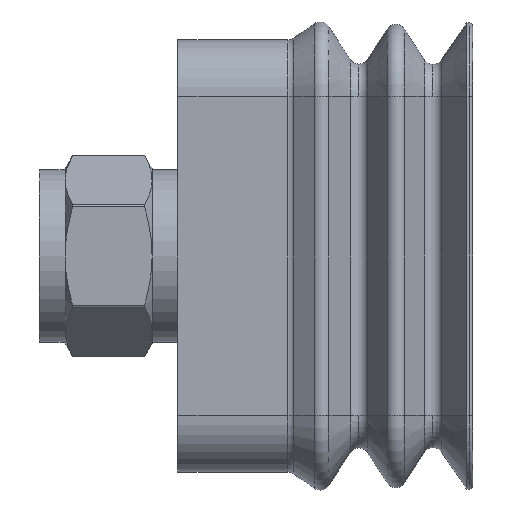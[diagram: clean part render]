
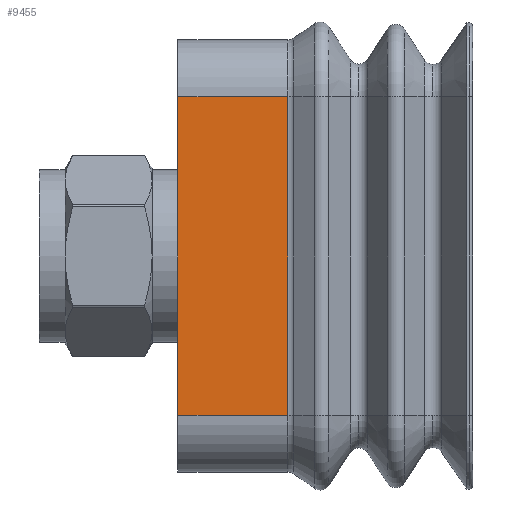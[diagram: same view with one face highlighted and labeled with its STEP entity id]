
A CAD part, left-side view. The second image highlights one B-rep face of the part: STEP entity #9455.
In plain terms, the highlighted planar face has unit normal (-1, 0, 0) as drawn and (0, -1, 0) by its records, which use the part's own axes.
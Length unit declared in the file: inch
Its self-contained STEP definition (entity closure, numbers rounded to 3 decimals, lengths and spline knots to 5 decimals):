
#348 = VERTEX_POINT ( 'NONE', #3344 ) ;
#578 = VECTOR ( 'NONE', #904, 39.37008 ) ;
#904 = DIRECTION ( 'NONE',  ( 1., 0., 0. ) ) ;
#1383 = EDGE_LOOP ( 'NONE', ( #10233, #9171, #5804, #9232 ) ) ;
#1487 = CARTESIAN_POINT ( 'NONE',  ( -0.61024, -0.32874, 0. ) ) ;
#1573 = EDGE_CURVE ( 'NONE', #348, #7570, #2224, .T. ) ;
#1606 = DIRECTION ( 'NONE',  ( 0., 0., -1. ) ) ;
#1659 = FACE_OUTER_BOUND ( 'NONE', #1383, .T. ) ;
#1980 = CARTESIAN_POINT ( 'NONE',  ( 0.61024, -0.32874, -0.42086 ) ) ;
#2224 = LINE ( 'NONE', #1487, #7226 ) ;
#2245 = DIRECTION ( 'NONE',  ( 0., 0., -1. ) ) ;
#2354 = EDGE_CURVE ( 'NONE', #348, #5956, #10607, .T. ) ;
#2387 = VECTOR ( 'NONE', #2245, 39.37008 ) ;
#2391 = CARTESIAN_POINT ( 'NONE',  ( 0.61024, -0.32874, 0. ) ) ;
#2687 = LINE ( 'NONE', #5911, #5203 ) ;
#3059 = VERTEX_POINT ( 'NONE', #1980 ) ;
#3172 = DIRECTION ( 'NONE',  ( 0., -1., 0. ) ) ;
#3221 = CARTESIAN_POINT ( 'NONE',  ( -0.61024, -0.32874, -0.43307 ) ) ;
#3264 = CARTESIAN_POINT ( 'NONE',  ( -0.61024, -0.32874, -0.42086 ) ) ;
#3273 = CARTESIAN_POINT ( 'NONE',  ( -0.61024, -0.32874, -0.43307 ) ) ;
#3344 = CARTESIAN_POINT ( 'NONE',  ( -0.61024, -0.32874, 0. ) ) ;
#3623 = AXIS2_PLACEMENT_3D ( 'NONE', #3221, #3172, #1606 ) ;
#4037 = PLANE ( 'NONE',  #3623 ) ;
#5203 = VECTOR ( 'NONE', #8479, 39.37008 ) ;
#5783 = CARTESIAN_POINT ( 'NONE',  ( 0.61024, -0.32874, -0.42086 ) ) ;
#5804 = ORIENTED_EDGE ( 'NONE', *, *, #6845, .F. ) ;
#5911 = CARTESIAN_POINT ( 'NONE',  ( 0.61024, -0.32874, -0.43307 ) ) ;
#5956 = VERTEX_POINT ( 'NONE', #3264 ) ;
#6309 = DIRECTION ( 'NONE',  ( 1., 0., 0. ) ) ;
#6599 = LINE ( 'NONE', #5783, #578 ) ;
#6845 = EDGE_CURVE ( 'NONE', #7570, #3059, #2687, .T. ) ;
#7226 = VECTOR ( 'NONE', #6309, 39.37008 ) ;
#7280 = EDGE_CURVE ( 'NONE', #5956, #3059, #6599, .T. ) ;
#7570 = VERTEX_POINT ( 'NONE', #2391 ) ;
#8479 = DIRECTION ( 'NONE',  ( 0., 0., -1. ) ) ;
#9171 = ORIENTED_EDGE ( 'NONE', *, *, #7280, .T. ) ;
#9232 = ORIENTED_EDGE ( 'NONE', *, *, #1573, .F. ) ;
#9455 = ADVANCED_FACE ( 'NONE', ( #1659 ), #4037, .T. ) ;
#10233 = ORIENTED_EDGE ( 'NONE', *, *, #2354, .T. ) ;
#10607 = LINE ( 'NONE', #3273, #2387 ) ;
